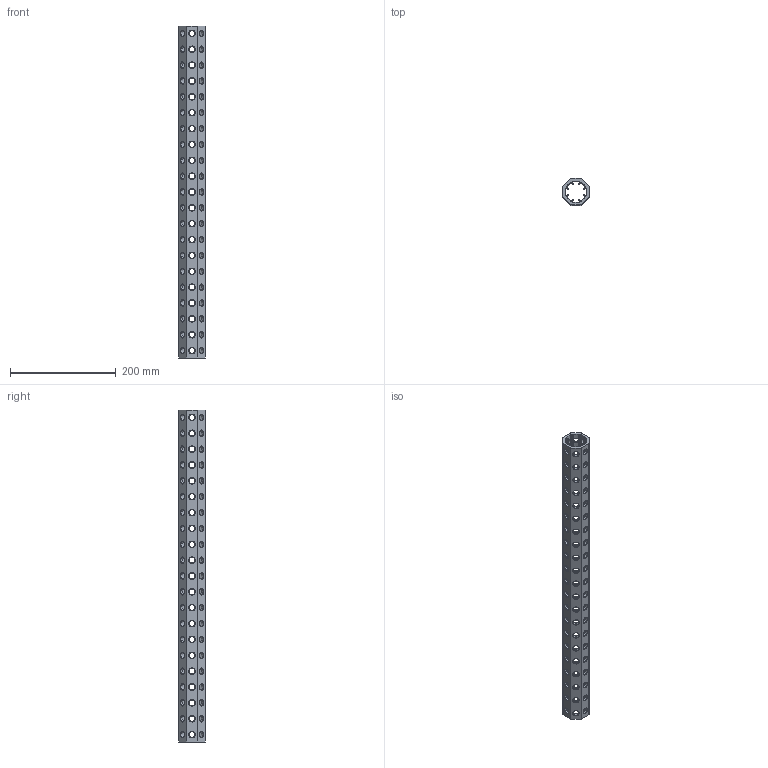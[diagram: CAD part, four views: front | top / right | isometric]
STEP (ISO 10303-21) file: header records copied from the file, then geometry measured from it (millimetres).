
FILE_DESCRIPTION(('CATIA V5 STEP Exchange'),'2;1');
FILE_NAME('U:\Room\唐宝山\EGT002\46-01-010250-01-EGT002-628.stp','2021-08-24T01:04:39+00:00',('none'),('none'),'CATIA Version 5 Release 21 GA (IN-10)','CATIA V5 STEP AP203','none');
FILE_SCHEMA(('CONFIG_CONTROL_DESIGN'));
Length unit declared in the file: millimetre
Products named in the file (1): 46-01-010250-01-EGT002-628
Bounding box: 50 x 50 x 628 mm (x, y, z)
Volume: 447265.3 mm3; surface area: 216869.1 mm2
Topology: 1 solids, 1 shells, 924 faces, 2556 edges, 1592 vertices
Faces by surface type: cone 504, cylinder 394, plane 26
Entity records: 38972 total; most frequent: CARTESIAN_POINT 16607, ORIENTED_EDGE 5112, DIRECTION 3568, EDGE_CURVE 2556, AXIS2_PLACEMENT_3D 1633, VERTEX_POINT 1592, EDGE_LOOP 1220, VECTOR 1012
